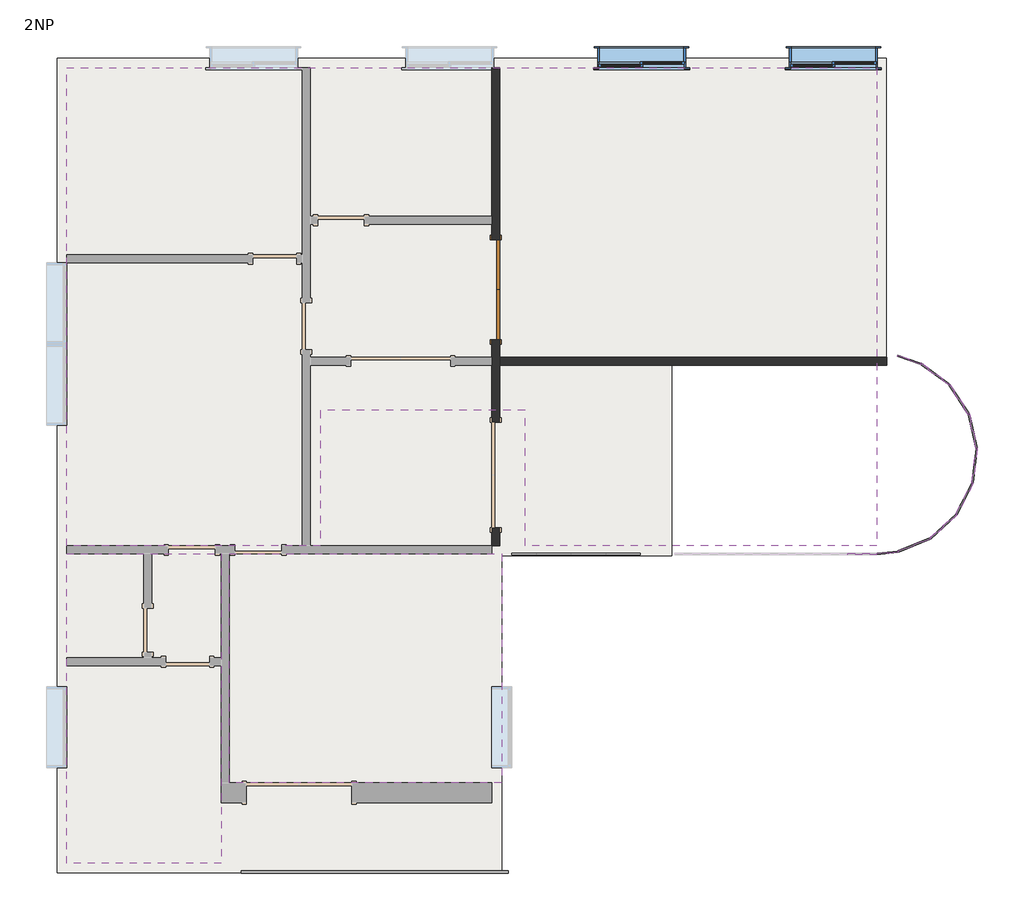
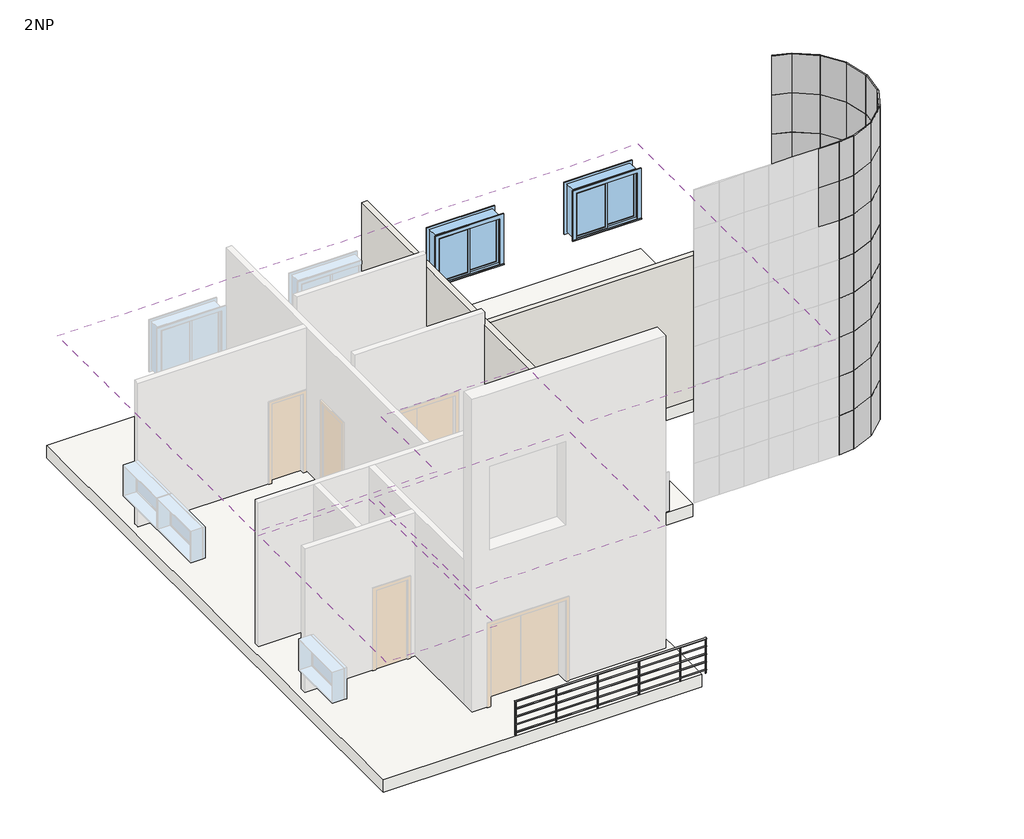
# One storey, part 2 of 2: 74 plates, 3 coverings, 2 railings, 2 walls, 2 windows, 1 door, 1 slab.
"""IFC4 building model written with IfcOpenShell, lengths in millimetres."""

from ifc_helpers import new_model, si_unit, frame, origin, place, context, project, spatial, polyline, outline, extrude, faceted_brep, transform, mapped, element, save
from components import m_double_flush_1730_x_2134mm_e0861497, system_panel_glazed_0324e248, system_panel_glazed_cfa42cd7, system_panel_glazed_a481d3b4, system_panel_glazed_8955cf43, railing_900mm_pipe_45b1395d, m_sliding_with_trim_1830_x_1220mm_f8e2f31e

model = new_model("IFC4")

# Units and contexts
model_context = context("Model", 3, world=origin())
ifc_project = project(units=[si_unit("LENGTHUNIT", "METRE", prefix="MILLI")], contexts=[model_context])

# Site, building, storey
site = spatial("IfcSite", under=ifc_project)
building = spatial("IfcBuilding", under=site)
storey = spatial("IfcBuildingStorey", under=building, Name="2NP", Elevation=4000.0)

# Coverings
placement = place(None, origin())
element("IfcCovering", 1, ObjectType="600 x 600mm grid", at=placement, inside=storey, context=model_context, shape_type="SweptSolid", body=[
    extrude(outline(polyline([(-4505.3077176, -4075.1973194), (-7180.3077176, -4075.1973194), (-7180.3077176, 1286.3026806), (-4505.3077176, 1286.3026806), (-4505.3077176, -4075.1973194)])), frame((0.0, 0.0, 6850.0), z_axis=(0.0, 0.0, 1.0), x_axis=(1.0, 0.0, 0.0)), (0.0, 0.0, 1.0), 52.0),
])
element("IfcCovering", 2, ObjectType="600 x 600mm grid", at=placement, inside=storey, context=model_context, shape_type="SweptSolid", body=[
    extrude(outline(polyline([(357.3775179, 1286.3026806), (357.3775179, -2675.1973194), (-4366.8077176, -2675.1973194), (-4366.8077176, 1286.3026806), (357.3775179, 1286.3026806)])), frame((0.0, 0.0, 6850.0), z_axis=(0.0, 0.0, 1.0), x_axis=(1.0, 0.0, 0.0)), (0.0, 0.0, 1.0), 52.0),
])
element("IfcCovering", 3, ObjectType="600 x 600mm grid", at=placement, inside=storey, context=model_context, shape_type="SweptSolid", body=[
    extrude(outline(polyline([(6858.993045, 9711.6003657), (6858.993045, 1424.8026806), (764.743045, 1424.8026806), (764.743045, 3773.1003657), (-2785.256955, 3773.1003657), (-2785.256955, 1424.8026806), (-7180.3077176, 1424.8026806), (-7180.3077176, 9711.6003657), (6858.993045, 9711.6003657)])), frame((0.0, 0.0, 6850.0), z_axis=(0.0, 0.0, 1.0), x_axis=(1.0, 0.0, 0.0)), (0.0, 0.0, 1.0), 52.0),
])

# Door
m_double_flush_1730_x_2134mm_shape = m_double_flush_1730_x_2134mm_e0861497(model_context)
element("IfcDoor", 4, ObjectType="M_Double-Flush : 1730 x 2134mm", at=placement, inside=storey, context=model_context, shape_type="MappedRepresentation", body=[
    mapped(m_double_flush_1730_x_2134mm_shape, transform((251.6275179, 5865.0261065, 4000.0), x_axis=(0.0, -1.0, 0.0), y_axis=(1.0, 0.0, 0.0), z_axis=(0.0, 0.0, 1.0))),
])

# Plates
system_panel_glazed_shape = system_panel_glazed_0324e248(model_context)
element("IfcPlate", 5, ObjectType="System Panel : Glazed", at=placement, inside=storey, context=model_context, shape_type="MappedRepresentation", body=[
    mapped(system_panel_glazed_shape, transform((7407.5982701, 4617.9248656, 4000.0), x_axis=(0.9451321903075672, -0.3266881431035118, 0.0), y_axis=(0.3266881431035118, 0.9451321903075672, 0.0), z_axis=(0.0, 0.0, 1.0))),
])
element("IfcPlate", 6, ObjectType="System Panel : Glazed", at=placement, inside=storey, context=model_context, shape_type="MappedRepresentation", body=[
    mapped(system_panel_glazed_shape, transform((7407.5982701, 4617.9248656, 5000.0), x_axis=(0.9451321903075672, -0.32668814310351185, 0.0), y_axis=(0.32668814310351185, 0.9451321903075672, 0.0), z_axis=(0.0, 0.0, 1.0))),
])
element("IfcPlate", 7, ObjectType="System Panel : Glazed", at=placement, inside=storey, context=model_context, shape_type="MappedRepresentation", body=[
    mapped(system_panel_glazed_shape, transform((7407.5982701, 4617.9248656, 6000.0), x_axis=(0.9451321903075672, -0.32668814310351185, 0.0), y_axis=(0.32668814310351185, 0.9451321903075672, 0.0), z_axis=(0.0, 0.0, 1.0))),
])
element("IfcPlate", 8, ObjectType="System Panel : Glazed", at=placement, inside=storey, context=model_context, shape_type="MappedRepresentation", body=[
    mapped(system_panel_glazed_shape, transform((7407.5982701, 4617.9248656, 7000.0), x_axis=(0.9451321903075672, -0.32668814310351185, 0.0), y_axis=(0.32668814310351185, 0.9451321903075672, 0.0), z_axis=(0.0, 0.0, 1.0))),
])
element("IfcPlate", 9, ObjectType="System Panel : Glazed", at=placement, inside=storey, context=model_context, shape_type="MappedRepresentation", body=[
    mapped(system_panel_glazed_shape, transform((7407.5982701, 4617.9248656, 8000.0), x_axis=(0.9451321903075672, -0.32668814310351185, 0.0), y_axis=(0.32668814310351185, 0.9451321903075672, 0.0), z_axis=(0.0, 0.0, 1.0))),
])
element("IfcPlate", 10, ObjectType="System Panel : Glazed", at=placement, inside=storey, context=model_context, shape_type="MappedRepresentation", body=[
    mapped(system_panel_glazed_shape, transform((7407.5982701, 4617.9248656, 9000.0), x_axis=(0.9451321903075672, -0.32668814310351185, 0.0), y_axis=(0.32668814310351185, 0.9451321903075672, 0.0), z_axis=(0.0, 0.0, 1.0))),
])
element("IfcPlate", 11, ObjectType="System Panel : Glazed", at=placement, inside=storey, context=model_context, shape_type="MappedRepresentation", body=[
    mapped(system_panel_glazed_shape, transform((7407.5982701, 4617.9248656, 10000.0), x_axis=(0.9451321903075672, -0.32668814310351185, 0.0), y_axis=(0.32668814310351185, 0.9451321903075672, 0.0), z_axis=(0.0, 0.0, 1.0))),
])
element("IfcPlate", 12, ObjectType="System Panel : Glazed", at=placement, inside=storey, context=model_context, shape_type="MappedRepresentation", body=[
    mapped(system_panel_glazed_shape, transform((7407.5982701, 4617.9248656, 11000.0), x_axis=(0.9451321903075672, -0.32668814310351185, 0.0), y_axis=(0.32668814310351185, 0.9451321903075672, 0.0), z_axis=(0.0, 0.0, 1.0))),
])
system_panel_glazed_2_shape = system_panel_glazed_cfa42cd7(model_context)
element("IfcPlate", 13, ObjectType="System Panel : Glazed", at=placement, inside=storey, context=model_context, shape_type="MappedRepresentation", body=[
    mapped(system_panel_glazed_2_shape, transform((7847.9149476, 4372.0529301, 4000.0), x_axis=(0.8056732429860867, -0.5923602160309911, 0.0), y_axis=(0.5923602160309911, 0.8056732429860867, 0.0), z_axis=(0.0, 0.0, 1.0))),
])
element("IfcPlate", 14, ObjectType="System Panel : Glazed", at=placement, inside=storey, context=model_context, shape_type="MappedRepresentation", body=[
    mapped(system_panel_glazed_2_shape, transform((8252.8844111, 3946.2622388, 4000.0), x_axis=(0.5512569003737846, -0.8343355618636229, 0.0), y_axis=(0.8343355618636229, 0.5512569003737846, 0.0), z_axis=(0.0, 0.0, 1.0))),
])
element("IfcPlate", 15, ObjectType="System Panel : Glazed", at=placement, inside=storey, context=model_context, shape_type="MappedRepresentation", body=[
    mapped(system_panel_glazed_2_shape, transform((8485.7131471, 3406.7358179, 4000.0), x_axis=(0.22888174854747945, -0.9734542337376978, 0.0), y_axis=(0.9734542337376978, 0.22888174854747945, 0.0), z_axis=(0.0, 0.0, 1.0))),
])
element("IfcPlate", 16, ObjectType="System Panel : Glazed", at=placement, inside=storey, context=model_context, shape_type="MappedRepresentation", body=[
    mapped(system_panel_glazed_2_shape, transform((8517.6980887, 2819.9863461, 4000.0), x_axis=(-0.12170988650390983, -0.9925657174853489, 0.0), y_axis=(0.9925657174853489, -0.12170988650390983, 0.0), z_axis=(0.0, 0.0, 1.0))),
])
element("IfcPlate", 17, ObjectType="System Panel : Glazed", at=placement, inside=storey, context=model_context, shape_type="MappedRepresentation", body=[
    mapped(system_panel_glazed_2_shape, transform((7847.9149476, 4372.0529301, 5000.0), x_axis=(0.8056732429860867, -0.5923602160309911, 0.0), y_axis=(0.5923602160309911, 0.8056732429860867, 0.0), z_axis=(0.0, 0.0, 1.0))),
])
element("IfcPlate", 18, ObjectType="System Panel : Glazed", at=placement, inside=storey, context=model_context, shape_type="MappedRepresentation", body=[
    mapped(system_panel_glazed_2_shape, transform((8252.8844111, 3946.2622388, 5000.0), x_axis=(0.5512569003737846, -0.8343355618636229, 0.0), y_axis=(0.8343355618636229, 0.5512569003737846, 0.0), z_axis=(0.0, 0.0, 1.0))),
])
element("IfcPlate", 19, ObjectType="System Panel : Glazed", at=placement, inside=storey, context=model_context, shape_type="MappedRepresentation", body=[
    mapped(system_panel_glazed_2_shape, transform((8485.7131471, 3406.7358179, 5000.0), x_axis=(0.22888174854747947, -0.9734542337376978, 0.0), y_axis=(0.9734542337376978, 0.22888174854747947, 0.0), z_axis=(0.0, 0.0, 1.0))),
])
element("IfcPlate", 20, ObjectType="System Panel : Glazed", at=placement, inside=storey, context=model_context, shape_type="MappedRepresentation", body=[
    mapped(system_panel_glazed_2_shape, transform((8517.6980887, 2819.9863461, 5000.0), x_axis=(-0.12170988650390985, -0.9925657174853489, 0.0), y_axis=(0.9925657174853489, -0.12170988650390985, 0.0), z_axis=(0.0, 0.0, 1.0))),
])
element("IfcPlate", 21, ObjectType="System Panel : Glazed", at=placement, inside=storey, context=model_context, shape_type="MappedRepresentation", body=[
    mapped(system_panel_glazed_2_shape, transform((7847.9149476, 4372.0529301, 6000.0), x_axis=(0.8056732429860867, -0.5923602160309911, 0.0), y_axis=(0.5923602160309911, 0.8056732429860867, 0.0), z_axis=(0.0, 0.0, 1.0))),
])
element("IfcPlate", 22, ObjectType="System Panel : Glazed", at=placement, inside=storey, context=model_context, shape_type="MappedRepresentation", body=[
    mapped(system_panel_glazed_2_shape, transform((8252.8844111, 3946.2622388, 6000.0), x_axis=(0.5512569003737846, -0.8343355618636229, 0.0), y_axis=(0.8343355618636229, 0.5512569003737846, 0.0), z_axis=(0.0, 0.0, 1.0))),
])
element("IfcPlate", 23, ObjectType="System Panel : Glazed", at=placement, inside=storey, context=model_context, shape_type="MappedRepresentation", body=[
    mapped(system_panel_glazed_2_shape, transform((8485.7131471, 3406.7358179, 6000.0), x_axis=(0.22888174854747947, -0.9734542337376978, 0.0), y_axis=(0.9734542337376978, 0.22888174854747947, 0.0), z_axis=(0.0, 0.0, 1.0))),
])
element("IfcPlate", 24, ObjectType="System Panel : Glazed", at=placement, inside=storey, context=model_context, shape_type="MappedRepresentation", body=[
    mapped(system_panel_glazed_2_shape, transform((8517.6980887, 2819.9863461, 6000.0), x_axis=(-0.12170988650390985, -0.9925657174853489, 0.0), y_axis=(0.9925657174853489, -0.12170988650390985, 0.0), z_axis=(0.0, 0.0, 1.0))),
])
element("IfcPlate", 25, ObjectType="System Panel : Glazed", at=placement, inside=storey, context=model_context, shape_type="MappedRepresentation", body=[
    mapped(system_panel_glazed_2_shape, transform((7847.9149476, 4372.0529301, 7000.0), x_axis=(0.8056732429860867, -0.5923602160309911, 0.0), y_axis=(0.5923602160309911, 0.8056732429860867, 0.0), z_axis=(0.0, 0.0, 1.0))),
])
element("IfcPlate", 26, ObjectType="System Panel : Glazed", at=placement, inside=storey, context=model_context, shape_type="MappedRepresentation", body=[
    mapped(system_panel_glazed_2_shape, transform((8252.8844111, 3946.2622388, 7000.0), x_axis=(0.5512569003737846, -0.8343355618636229, 0.0), y_axis=(0.8343355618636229, 0.5512569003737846, 0.0), z_axis=(0.0, 0.0, 1.0))),
])
element("IfcPlate", 27, ObjectType="System Panel : Glazed", at=placement, inside=storey, context=model_context, shape_type="MappedRepresentation", body=[
    mapped(system_panel_glazed_2_shape, transform((8485.7131471, 3406.7358179, 7000.0), x_axis=(0.22888174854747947, -0.9734542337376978, 0.0), y_axis=(0.9734542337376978, 0.22888174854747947, 0.0), z_axis=(0.0, 0.0, 1.0))),
])
element("IfcPlate", 28, ObjectType="System Panel : Glazed", at=placement, inside=storey, context=model_context, shape_type="MappedRepresentation", body=[
    mapped(system_panel_glazed_2_shape, transform((8517.6980887, 2819.9863461, 7000.0), x_axis=(-0.12170988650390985, -0.9925657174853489, 0.0), y_axis=(0.9925657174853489, -0.12170988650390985, 0.0), z_axis=(0.0, 0.0, 1.0))),
])
element("IfcPlate", 29, ObjectType="System Panel : Glazed", at=placement, inside=storey, context=model_context, shape_type="MappedRepresentation", body=[
    mapped(system_panel_glazed_2_shape, transform((7847.9149476, 4372.0529301, 8000.0), x_axis=(0.8056732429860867, -0.5923602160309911, 0.0), y_axis=(0.5923602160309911, 0.8056732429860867, 0.0), z_axis=(0.0, 0.0, 1.0))),
])
element("IfcPlate", 30, ObjectType="System Panel : Glazed", at=placement, inside=storey, context=model_context, shape_type="MappedRepresentation", body=[
    mapped(system_panel_glazed_2_shape, transform((8252.8844111, 3946.2622388, 8000.0), x_axis=(0.5512569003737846, -0.8343355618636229, 0.0), y_axis=(0.8343355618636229, 0.5512569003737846, 0.0), z_axis=(0.0, 0.0, 1.0))),
])
element("IfcPlate", 31, ObjectType="System Panel : Glazed", at=placement, inside=storey, context=model_context, shape_type="MappedRepresentation", body=[
    mapped(system_panel_glazed_2_shape, transform((8485.7131471, 3406.7358179, 8000.0), x_axis=(0.22888174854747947, -0.9734542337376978, 0.0), y_axis=(0.9734542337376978, 0.22888174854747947, 0.0), z_axis=(0.0, 0.0, 1.0))),
])
element("IfcPlate", 32, ObjectType="System Panel : Glazed", at=placement, inside=storey, context=model_context, shape_type="MappedRepresentation", body=[
    mapped(system_panel_glazed_2_shape, transform((8517.6980887, 2819.9863461, 8000.0), x_axis=(-0.12170988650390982, -0.9925657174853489, 0.0), y_axis=(0.9925657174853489, -0.12170988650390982, 0.0), z_axis=(0.0, 0.0, 1.0))),
])
element("IfcPlate", 33, ObjectType="System Panel : Glazed", at=placement, inside=storey, context=model_context, shape_type="MappedRepresentation", body=[
    mapped(system_panel_glazed_2_shape, transform((7847.9149476, 4372.0529301, 9000.0), x_axis=(0.8056732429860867, -0.5923602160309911, 0.0), y_axis=(0.5923602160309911, 0.8056732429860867, 0.0), z_axis=(0.0, 0.0, 1.0))),
])
element("IfcPlate", 34, ObjectType="System Panel : Glazed", at=placement, inside=storey, context=model_context, shape_type="MappedRepresentation", body=[
    mapped(system_panel_glazed_2_shape, transform((8252.8844111, 3946.2622388, 9000.0), x_axis=(0.5512569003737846, -0.8343355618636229, 0.0), y_axis=(0.8343355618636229, 0.5512569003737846, 0.0), z_axis=(0.0, 0.0, 1.0))),
])
element("IfcPlate", 35, ObjectType="System Panel : Glazed", at=placement, inside=storey, context=model_context, shape_type="MappedRepresentation", body=[
    mapped(system_panel_glazed_2_shape, transform((8485.7131471, 3406.7358179, 9000.0), x_axis=(0.22888174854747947, -0.9734542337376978, 0.0), y_axis=(0.9734542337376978, 0.22888174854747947, 0.0), z_axis=(0.0, 0.0, 1.0))),
])
element("IfcPlate", 36, ObjectType="System Panel : Glazed", at=placement, inside=storey, context=model_context, shape_type="MappedRepresentation", body=[
    mapped(system_panel_glazed_2_shape, transform((8517.6980887, 2819.9863461, 9000.0), x_axis=(-0.12170988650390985, -0.9925657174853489, 0.0), y_axis=(0.9925657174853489, -0.12170988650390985, 0.0), z_axis=(0.0, 0.0, 1.0))),
])
element("IfcPlate", 37, ObjectType="System Panel : Glazed", at=placement, inside=storey, context=model_context, shape_type="MappedRepresentation", body=[
    mapped(system_panel_glazed_2_shape, transform((7847.9149476, 4372.0529301, 10000.0), x_axis=(0.8056732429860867, -0.5923602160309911, 0.0), y_axis=(0.5923602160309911, 0.8056732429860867, 0.0), z_axis=(0.0, 0.0, 1.0))),
])
element("IfcPlate", 38, ObjectType="System Panel : Glazed", at=placement, inside=storey, context=model_context, shape_type="MappedRepresentation", body=[
    mapped(system_panel_glazed_2_shape, transform((8252.8844111, 3946.2622388, 10000.0), x_axis=(0.5512569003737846, -0.8343355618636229, 0.0), y_axis=(0.8343355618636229, 0.5512569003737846, 0.0), z_axis=(0.0, 0.0, 1.0))),
])
element("IfcPlate", 39, ObjectType="System Panel : Glazed", at=placement, inside=storey, context=model_context, shape_type="MappedRepresentation", body=[
    mapped(system_panel_glazed_2_shape, transform((8485.7131471, 3406.7358179, 10000.0), x_axis=(0.22888174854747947, -0.9734542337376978, 0.0), y_axis=(0.9734542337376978, 0.22888174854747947, 0.0), z_axis=(0.0, 0.0, 1.0))),
])
element("IfcPlate", 40, ObjectType="System Panel : Glazed", at=placement, inside=storey, context=model_context, shape_type="MappedRepresentation", body=[
    mapped(system_panel_glazed_2_shape, transform((8517.6980887, 2819.9863461, 10000.0), x_axis=(-0.12170988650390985, -0.9925657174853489, 0.0), y_axis=(0.9925657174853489, -0.12170988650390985, 0.0), z_axis=(0.0, 0.0, 1.0))),
])
element("IfcPlate", 41, ObjectType="System Panel : Glazed", at=placement, inside=storey, context=model_context, shape_type="MappedRepresentation", body=[
    mapped(system_panel_glazed_2_shape, transform((7847.9149476, 4372.0529301, 11000.0), x_axis=(0.8056732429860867, -0.5923602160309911, 0.0), y_axis=(0.5923602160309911, 0.8056732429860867, 0.0), z_axis=(0.0, 0.0, 1.0))),
])
element("IfcPlate", 42, ObjectType="System Panel : Glazed", at=placement, inside=storey, context=model_context, shape_type="MappedRepresentation", body=[
    mapped(system_panel_glazed_2_shape, transform((8252.8844111, 3946.2622388, 11000.0), x_axis=(0.5512569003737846, -0.8343355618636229, 0.0), y_axis=(0.8343355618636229, 0.5512569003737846, 0.0), z_axis=(0.0, 0.0, 1.0))),
])
element("IfcPlate", 43, ObjectType="System Panel : Glazed", at=placement, inside=storey, context=model_context, shape_type="MappedRepresentation", body=[
    mapped(system_panel_glazed_2_shape, transform((8485.7131471, 3406.7358179, 11000.0), x_axis=(0.22888174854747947, -0.9734542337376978, 0.0), y_axis=(0.9734542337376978, 0.22888174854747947, 0.0), z_axis=(0.0, 0.0, 1.0))),
])
element("IfcPlate", 44, ObjectType="System Panel : Glazed", at=placement, inside=storey, context=model_context, shape_type="MappedRepresentation", body=[
    mapped(system_panel_glazed_2_shape, transform((8517.6980887, 2819.9863461, 11000.0), x_axis=(-0.12170988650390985, -0.9925657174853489, 0.0), y_axis=(0.9925657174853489, -0.12170988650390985, 0.0), z_axis=(0.0, 0.0, 1.0))),
])
element("IfcPlate", 45, ObjectType="System Panel : Glazed", at=placement, inside=storey, context=model_context, shape_type="MappedRepresentation", body=[
    mapped(system_panel_glazed_2_shape, transform((8344.8961407, 2258.3481477, 4000.0), x_axis=(-0.4572971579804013, -0.8893139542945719, 0.0), y_axis=(0.8893139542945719, -0.4572971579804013, 0.0), z_axis=(0.0, 0.0, 1.0))),
])
element("IfcPlate", 46, ObjectType="System Panel : Glazed", at=placement, inside=storey, context=model_context, shape_type="MappedRepresentation", body=[
    mapped(system_panel_glazed_2_shape, transform((8344.8961407, 2258.3481477, 5000.0), x_axis=(-0.4572971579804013, -0.8893139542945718, 0.0), y_axis=(0.8893139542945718, -0.4572971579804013, 0.0), z_axis=(0.0, 0.0, 1.0))),
])
element("IfcPlate", 47, ObjectType="System Panel : Glazed", at=placement, inside=storey, context=model_context, shape_type="MappedRepresentation", body=[
    mapped(system_panel_glazed_2_shape, transform((8344.8961407, 2258.3481477, 6000.0), x_axis=(-0.4572971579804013, -0.8893139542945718, 0.0), y_axis=(0.8893139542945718, -0.4572971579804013, 0.0), z_axis=(0.0, 0.0, 1.0))),
])
element("IfcPlate", 48, ObjectType="System Panel : Glazed", at=placement, inside=storey, context=model_context, shape_type="MappedRepresentation", body=[
    mapped(system_panel_glazed_2_shape, transform((8344.8961407, 2258.3481477, 7000.0), x_axis=(-0.4572971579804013, -0.8893139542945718, 0.0), y_axis=(0.8893139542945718, -0.4572971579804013, 0.0), z_axis=(0.0, 0.0, 1.0))),
])
element("IfcPlate", 49, ObjectType="System Panel : Glazed", at=placement, inside=storey, context=model_context, shape_type="MappedRepresentation", body=[
    mapped(system_panel_glazed_2_shape, transform((8344.8961407, 2258.3481477, 8000.0), x_axis=(-0.4572971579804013, -0.8893139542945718, 0.0), y_axis=(0.8893139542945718, -0.4572971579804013, 0.0), z_axis=(0.0, 0.0, 1.0))),
])
element("IfcPlate", 50, ObjectType="System Panel : Glazed", at=placement, inside=storey, context=model_context, shape_type="MappedRepresentation", body=[
    mapped(system_panel_glazed_2_shape, transform((8344.8961407, 2258.3481477, 9000.0), x_axis=(-0.4572971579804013, -0.8893139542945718, 0.0), y_axis=(0.8893139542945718, -0.4572971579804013, 0.0), z_axis=(0.0, 0.0, 1.0))),
])
element("IfcPlate", 51, ObjectType="System Panel : Glazed", at=placement, inside=storey, context=model_context, shape_type="MappedRepresentation", body=[
    mapped(system_panel_glazed_2_shape, transform((8344.8961407, 2258.3481477, 10000.0), x_axis=(-0.4572971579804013, -0.8893139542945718, 0.0), y_axis=(0.8893139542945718, -0.4572971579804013, 0.0), z_axis=(0.0, 0.0, 1.0))),
])
element("IfcPlate", 52, ObjectType="System Panel : Glazed", at=placement, inside=storey, context=model_context, shape_type="MappedRepresentation", body=[
    mapped(system_panel_glazed_2_shape, transform((8344.8961407, 2258.3481477, 11000.0), x_axis=(-0.4572971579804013, -0.8893139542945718, 0.0), y_axis=(0.8893139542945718, -0.4572971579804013, 0.0), z_axis=(0.0, 0.0, 1.0))),
])
element("IfcPlate", 53, ObjectType="System Panel : Glazed", at=placement, inside=storey, context=model_context, shape_type="MappedRepresentation", body=[
    mapped(system_panel_glazed_2_shape, transform((7988.6102827, 1791.0598357, 4000.0), x_axis=(-0.7365089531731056, -0.6764277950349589, 0.0), y_axis=(0.6764277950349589, -0.7365089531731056, 0.0), z_axis=(0.0, 0.0, 1.0))),
])
element("IfcPlate", 54, ObjectType="System Panel : Glazed", at=placement, inside=storey, context=model_context, shape_type="MappedRepresentation", body=[
    mapped(system_panel_glazed_2_shape, transform((7988.6102827, 1791.0598357, 5000.0), x_axis=(-0.7365089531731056, -0.6764277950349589, 0.0), y_axis=(0.6764277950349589, -0.7365089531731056, 0.0), z_axis=(0.0, 0.0, 1.0))),
])
element("IfcPlate", 55, ObjectType="System Panel : Glazed", at=placement, inside=storey, context=model_context, shape_type="MappedRepresentation", body=[
    mapped(system_panel_glazed_2_shape, transform((7988.6102827, 1791.0598357, 6000.0), x_axis=(-0.7365089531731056, -0.6764277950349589, 0.0), y_axis=(0.6764277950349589, -0.7365089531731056, 0.0), z_axis=(0.0, 0.0, 1.0))),
])
element("IfcPlate", 56, ObjectType="System Panel : Glazed", at=placement, inside=storey, context=model_context, shape_type="MappedRepresentation", body=[
    mapped(system_panel_glazed_2_shape, transform((7988.6102827, 1791.0598357, 7000.0), x_axis=(-0.7365089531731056, -0.6764277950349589, 0.0), y_axis=(0.6764277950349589, -0.7365089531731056, 0.0), z_axis=(0.0, 0.0, 1.0))),
])
element("IfcPlate", 57, ObjectType="System Panel : Glazed", at=placement, inside=storey, context=model_context, shape_type="MappedRepresentation", body=[
    mapped(system_panel_glazed_2_shape, transform((7988.6102827, 1791.0598357, 8000.0), x_axis=(-0.7365089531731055, -0.676427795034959, 0.0), y_axis=(0.676427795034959, -0.7365089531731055, 0.0), z_axis=(0.0, 0.0, 1.0))),
])
element("IfcPlate", 58, ObjectType="System Panel : Glazed", at=placement, inside=storey, context=model_context, shape_type="MappedRepresentation", body=[
    mapped(system_panel_glazed_2_shape, transform((7988.6102827, 1791.0598357, 9000.0), x_axis=(-0.7365089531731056, -0.6764277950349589, 0.0), y_axis=(0.6764277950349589, -0.7365089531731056, 0.0), z_axis=(0.0, 0.0, 1.0))),
])
element("IfcPlate", 59, ObjectType="System Panel : Glazed", at=placement, inside=storey, context=model_context, shape_type="MappedRepresentation", body=[
    mapped(system_panel_glazed_2_shape, transform((7988.6102827, 1791.0598357, 10000.0), x_axis=(-0.7365089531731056, -0.6764277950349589, 0.0), y_axis=(0.6764277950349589, -0.7365089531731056, 0.0), z_axis=(0.0, 0.0, 1.0))),
])
element("IfcPlate", 60, ObjectType="System Panel : Glazed", at=placement, inside=storey, context=model_context, shape_type="MappedRepresentation", body=[
    mapped(system_panel_glazed_2_shape, transform((7988.6102827, 1791.0598357, 11000.0), x_axis=(-0.7365089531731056, -0.6764277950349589, 0.0), y_axis=(0.6764277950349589, -0.7365089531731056, 0.0), z_axis=(0.0, 0.0, 1.0))),
])
element("IfcPlate", 61, ObjectType="System Panel : Glazed", at=placement, inside=storey, context=model_context, shape_type="MappedRepresentation", body=[
    mapped(system_panel_glazed_2_shape, transform((7492.7633439, 1475.7285933, 4000.0), x_axis=(-0.924924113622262, -0.38015179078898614, 0.0), y_axis=(0.38015179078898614, -0.924924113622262, 0.0), z_axis=(0.0, 0.0, 1.0))),
])
element("IfcPlate", 62, ObjectType="System Panel : Glazed", at=placement, inside=storey, context=model_context, shape_type="MappedRepresentation", body=[
    mapped(system_panel_glazed_2_shape, transform((7492.7633439, 1475.7285933, 5000.0), x_axis=(-0.924924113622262, -0.38015179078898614, 0.0), y_axis=(0.38015179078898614, -0.924924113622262, 0.0), z_axis=(0.0, 0.0, 1.0))),
])
element("IfcPlate", 63, ObjectType="System Panel : Glazed", at=placement, inside=storey, context=model_context, shape_type="MappedRepresentation", body=[
    mapped(system_panel_glazed_2_shape, transform((7492.7633439, 1475.7285933, 6000.0), x_axis=(-0.924924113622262, -0.38015179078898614, 0.0), y_axis=(0.38015179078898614, -0.924924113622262, 0.0), z_axis=(0.0, 0.0, 1.0))),
])
element("IfcPlate", 64, ObjectType="System Panel : Glazed", at=placement, inside=storey, context=model_context, shape_type="MappedRepresentation", body=[
    mapped(system_panel_glazed_2_shape, transform((7492.7633439, 1475.7285933, 7000.0), x_axis=(-0.924924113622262, -0.38015179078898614, 0.0), y_axis=(0.38015179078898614, -0.924924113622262, 0.0), z_axis=(0.0, 0.0, 1.0))),
])
element("IfcPlate", 65, ObjectType="System Panel : Glazed", at=placement, inside=storey, context=model_context, shape_type="MappedRepresentation", body=[
    mapped(system_panel_glazed_2_shape, transform((7492.7633439, 1475.7285933, 8000.0), x_axis=(-0.924924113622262, -0.38015179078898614, 0.0), y_axis=(0.38015179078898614, -0.924924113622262, 0.0), z_axis=(0.0, 0.0, 1.0))),
])
element("IfcPlate", 66, ObjectType="System Panel : Glazed", at=placement, inside=storey, context=model_context, shape_type="MappedRepresentation", body=[
    mapped(system_panel_glazed_2_shape, transform((7492.7633439, 1475.7285933, 9000.0), x_axis=(-0.924924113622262, -0.38015179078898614, 0.0), y_axis=(0.38015179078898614, -0.924924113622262, 0.0), z_axis=(0.0, 0.0, 1.0))),
])
element("IfcPlate", 67, ObjectType="System Panel : Glazed", at=placement, inside=storey, context=model_context, shape_type="MappedRepresentation", body=[
    mapped(system_panel_glazed_2_shape, transform((7492.7633439, 1475.7285933, 10000.0), x_axis=(-0.924924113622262, -0.38015179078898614, 0.0), y_axis=(0.38015179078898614, -0.924924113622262, 0.0), z_axis=(0.0, 0.0, 1.0))),
])
element("IfcPlate", 68, ObjectType="System Panel : Glazed", at=placement, inside=storey, context=model_context, shape_type="MappedRepresentation", body=[
    mapped(system_panel_glazed_2_shape, transform((7492.7633439, 1475.7285933, 11000.0), x_axis=(-0.924924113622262, -0.38015179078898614, 0.0), y_axis=(0.38015179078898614, -0.924924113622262, 0.0), z_axis=(0.0, 0.0, 1.0))),
])
system_panel_glazed_3_shape = system_panel_glazed_a481d3b4(model_context)
element("IfcPlate", 69, ObjectType="System Panel : Glazed", at=placement, inside=storey, context=model_context, shape_type="MappedRepresentation", body=[
    mapped(system_panel_glazed_3_shape, transform((7036.6330579, 1342.97692, 4000.0), x_axis=(-0.9943081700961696, -0.10654230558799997, 0.0), y_axis=(0.10654230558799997, -0.9943081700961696, 0.0), z_axis=(0.0, 0.0, 1.0))),
])
element("IfcPlate", 70, ObjectType="System Panel : Glazed", at=placement, inside=storey, context=model_context, shape_type="MappedRepresentation", body=[
    mapped(system_panel_glazed_3_shape, transform((7036.6330579, 1342.97692, 5000.0), x_axis=(-0.9943081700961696, -0.10654230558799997, 0.0), y_axis=(0.10654230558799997, -0.9943081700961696, 0.0), z_axis=(0.0, 0.0, 1.0))),
])
element("IfcPlate", 71, ObjectType="System Panel : Glazed", at=placement, inside=storey, context=model_context, shape_type="MappedRepresentation", body=[
    mapped(system_panel_glazed_3_shape, transform((7036.6330579, 1342.97692, 6000.0), x_axis=(-0.9943081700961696, -0.10654230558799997, 0.0), y_axis=(0.10654230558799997, -0.9943081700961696, 0.0), z_axis=(0.0, 0.0, 1.0))),
])
element("IfcPlate", 72, ObjectType="System Panel : Glazed", at=placement, inside=storey, context=model_context, shape_type="MappedRepresentation", body=[
    mapped(system_panel_glazed_3_shape, transform((7036.6330579, 1342.97692, 7000.0), x_axis=(-0.9943081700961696, -0.10654230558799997, 0.0), y_axis=(0.10654230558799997, -0.9943081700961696, 0.0), z_axis=(0.0, 0.0, 1.0))),
])
element("IfcPlate", 73, ObjectType="System Panel : Glazed", at=placement, inside=storey, context=model_context, shape_type="MappedRepresentation", body=[
    mapped(system_panel_glazed_3_shape, transform((7036.6330579, 1342.97692, 8000.0), x_axis=(-0.9943081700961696, -0.10654230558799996, 0.0), y_axis=(0.10654230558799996, -0.9943081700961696, 0.0), z_axis=(0.0, 0.0, 1.0))),
])
element("IfcPlate", 74, ObjectType="System Panel : Glazed", at=placement, inside=storey, context=model_context, shape_type="MappedRepresentation", body=[
    mapped(system_panel_glazed_3_shape, transform((7036.6330579, 1342.97692, 9000.0), x_axis=(-0.9943081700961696, -0.10654230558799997, 0.0), y_axis=(0.10654230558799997, -0.9943081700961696, 0.0), z_axis=(0.0, 0.0, 1.0))),
])
element("IfcPlate", 75, ObjectType="System Panel : Glazed", at=placement, inside=storey, context=model_context, shape_type="MappedRepresentation", body=[
    mapped(system_panel_glazed_3_shape, transform((7036.6330579, 1342.97692, 10000.0), x_axis=(-0.9943081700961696, -0.10654230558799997, 0.0), y_axis=(0.10654230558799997, -0.9943081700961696, 0.0), z_axis=(0.0, 0.0, 1.0))),
])
element("IfcPlate", 76, ObjectType="System Panel : Glazed", at=placement, inside=storey, context=model_context, shape_type="MappedRepresentation", body=[
    mapped(system_panel_glazed_3_shape, transform((7036.6330579, 1342.97692, 11000.0), x_axis=(-0.9943081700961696, -0.10654230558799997, 0.0), y_axis=(0.10654230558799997, -0.9943081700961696, 0.0), z_axis=(0.0, 0.0, 1.0))),
])
system_panel_glazed_4_shape = system_panel_glazed_8955cf43(model_context)
element("IfcPlate", 77, ObjectType="System Panel : Glazed", at=placement, inside=storey, context=model_context, shape_type="MappedRepresentation", body=[
    mapped(system_panel_glazed_4_shape, transform((6608.1852814, 1249.8026806, 10000.0), x_axis=(1.0, 0.0, 0.0), y_axis=(0.0, 1.0, 0.0), z_axis=(0.0, 0.0, 1.0))),
])
element("IfcPlate", 78, ObjectType="System Panel : Glazed", at=placement, inside=storey, context=model_context, shape_type="MappedRepresentation", body=[
    mapped(system_panel_glazed_4_shape, transform((6608.1852814, 1249.8026806, 11000.0), x_axis=(1.0, 0.0, 0.0), y_axis=(0.0, 1.0, 0.0), z_axis=(0.0, 0.0, 1.0))),
])

# Railings
railing_900mm_pipe_shape = railing_900mm_pipe_45b1395d(model_context)
element("IfcRailing", 79, ObjectType="900mm Pipe", at=placement, inside=storey, context=model_context, shape_type="MappedRepresentation", body=[
    mapped(railing_900mm_pipe_shape, transform((0.0, 0.0, 0.0), x_axis=(1.0, 0.0, 0.0), y_axis=(0.0, 1.0, 0.0), z_axis=(0.0, 0.0, 1.0))),
])
element("IfcRailing", 80, ObjectType="900mm Pipe", at=placement, inside=storey, context=model_context, shape_type="MappedRepresentation", body=[
    mapped(railing_900mm_pipe_shape, transform((0.0, 0.0, 0.0), x_axis=(1.0, 0.0, 0.0), y_axis=(0.0, 1.0, 0.0), z_axis=(0.0, 0.0, 1.0))),
])

# Slab
element("IfcSlab", 81, ObjectType="Residential 320mm", at=placement, inside=storey, context=model_context, shape_type="SweptSolid", body=[
    extrude(outline(polyline([(-7345.3077176, -4240.1973194), (-7345.3077176, 9876.6003657), (7023.993045, 9876.6003657), (7023.993045, 4561.5261065), (3308.993045, 4561.5261065), (3308.993045, 1259.8026806), (357.3775179, 1259.8026806), (357.3775179, -4240.1973194), (-7345.3077176, -4240.1973194)])), frame((0.0, 0.0, 3680.0), z_axis=(0.0, 0.0, 1.0), x_axis=(1.0, 0.0, 0.0)), (0.0, 0.0, 1.0), 320.0),
])

# Walls
element("IfcWall", 82, ObjectType="Interior - 138mm Partition (1-hr)", at=placement, inside=storey, context=model_context, shape_type="Brep", body=[
    faceted_brep([(320.8775179, 9711.6003657, 4000.0), (320.8775179, 9711.6003657, 7680.0), (320.8775179, 4700.0261065, 7680.0), (320.8775179, 4561.5261065, 7680.0), (320.8775179, 1424.8026806, 7680.0), (320.8775179, 1424.8026806, 4000.0), (320.8775179, 1743.1003657, 4000.0), (320.8775179, 1743.1003657, 6083.0), (320.8775179, 3573.1003657, 6083.0), (320.8775179, 3573.1003657, 4000.0), (320.8775179, 4561.5261065, 4000.0), (320.8775179, 4700.0261065, 4000.0), (320.8775179, 5000.0261065, 4000.0), (320.8775179, 5000.0261065, 6134.0), (320.8775179, 6730.0261065, 6134.0), (320.8775179, 6730.0261065, 4000.0), (182.3775179, 9711.6003657, 7680.0), (182.3775179, 9711.6003657, 4000.0), (182.3775179, 7138.5261065, 4000.0), (182.3775179, 7000.0261065, 4000.0), (182.3775179, 6730.0261065, 4000.0), (182.3775179, 6730.0261065, 6134.0), (182.3775179, 5000.0261065, 6134.0), (182.3775179, 5000.0261065, 4000.0), (182.3775179, 4700.0261065, 4000.0), (182.3775179, 4561.5261065, 4000.0), (182.3775179, 3573.1003657, 4000.0), (182.3775179, 3573.1003657, 6083.0), (182.3775179, 1743.1003657, 6083.0), (182.3775179, 1743.1003657, 4000.0), (182.3775179, 1424.8026806, 4000.0), (182.3775179, 1424.8026806, 7680.0)], [[[0, 1, 2, 3, 4, 5, 6, 7, 8, 9, 10, 11, 12, 13, 14, 15]], [[16, 17, 18, 19, 20, 21, 22, 23, 24, 25, 26, 27, 28, 29, 30, 31]], [[17, 0, 15, 20, 19, 18]], [[5, 30, 29, 6]], [[9, 26, 25, 24, 23, 12, 11, 10]], [[1, 0, 17, 16]], [[5, 4, 31, 30]], [[4, 3, 2, 1, 16, 31]], [[27, 26, 9, 8]], [[28, 27, 8, 7]], [[29, 28, 7, 6]], [[22, 13, 12, 23]], [[13, 22, 21, 14]], [[14, 21, 20, 15]]]),
])
element("IfcWall", 83, ObjectType="Interior - 138mm Partition (1-hr)", at=placement, inside=storey, context=model_context, shape_type="Brep", body=[
    faceted_brep([(320.8775179, 4561.5261065, 4000.0), (7033.993045, 4561.5261065, 4000.0), (7033.993045, 4561.5261065, 7680.0), (7023.993045, 4561.5261065, 7680.0), (3308.993045, 4561.5261065, 7680.0), (320.8775179, 4561.5261065, 7680.0), (320.8775179, 4700.0261065, 4000.0), (320.8775179, 4700.0261065, 7680.0), (7023.993045, 4700.0261065, 7680.0), (7033.993045, 4700.0261065, 7680.0), (7033.993045, 4700.0261065, 4000.0)], [[[0, 1, 2, 3, 4, 5]], [[6, 7, 8, 9, 10]], [[1, 0, 6, 10]], [[2, 1, 10, 9]], [[0, 5, 7, 6]], [[3, 2, 9, 8]], [[5, 4, 3, 8, 7]]]),
])

# Windows
m_sliding_with_trim_1830_x_1220mm_shape = m_sliding_with_trim_1830_x_1220mm_f8e2f31e(model_context)
element("IfcWindow", 84, ObjectType="M_Sliding with Trim : 1830 x 1220mm", at=placement, inside=storey, context=model_context, shape_type="MappedRepresentation", body=[
    mapped(m_sliding_with_trim_1830_x_1220mm_shape, transform((6107.6922824, 9886.6003657, 4000.0), x_axis=(-1.0, 0.0, 0.0), y_axis=(0.0, -1.0, 0.0), z_axis=(0.0, 0.0, 1.0))),
])
element("IfcWindow", 85, ObjectType="M_Sliding with Trim : 1830 x 1220mm", at=placement, inside=storey, context=model_context, shape_type="MappedRepresentation", body=[
    mapped(m_sliding_with_trim_1830_x_1220mm_shape, transform((2781.6922824, 9886.6003657, 4000.0), x_axis=(-1.0, 0.0, 0.0), y_axis=(0.0, -1.0, 0.0), z_axis=(0.0, 0.0, 1.0))),
])

save(model, "model.ifc")
